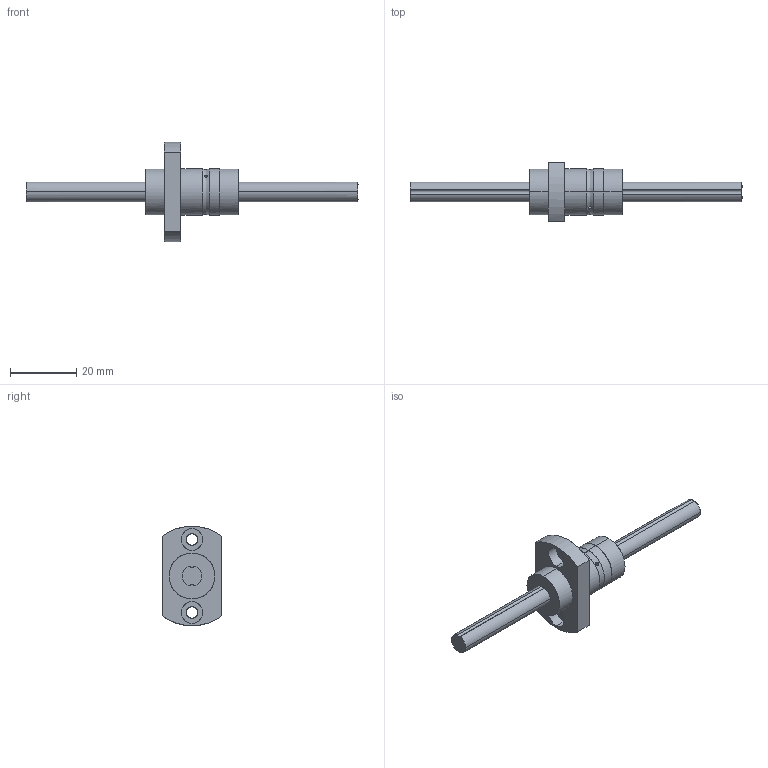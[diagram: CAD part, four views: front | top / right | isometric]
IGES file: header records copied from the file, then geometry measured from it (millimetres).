
Global section: file name: No Iges File Name specified; native system: AutoDesk Inventor R11.0; preprocessor: AutoDesk Inventor Iges Exporter R11.0; author: No Author specified; organization: No Organization specified; date: 20150223.133357; units: millimetre
Bounding box: 100 x 18 x 30 mm (x, y, z)
Surface area: 5059.5 mm2 (no closed solid volume)
Topology: 0 solids, 0 shells, 47 faces, 310 edges, 310 vertices
Faces by surface type: bspline 47
